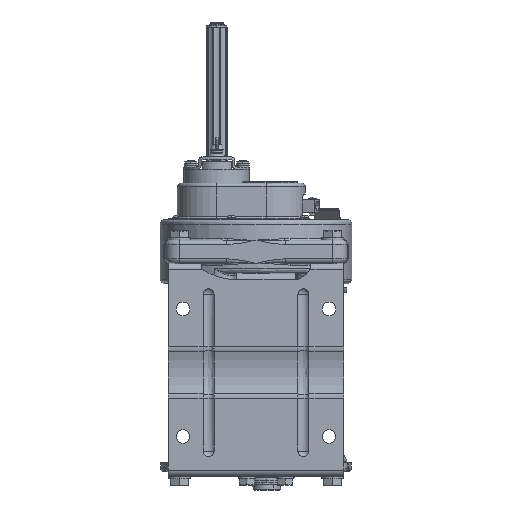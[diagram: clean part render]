
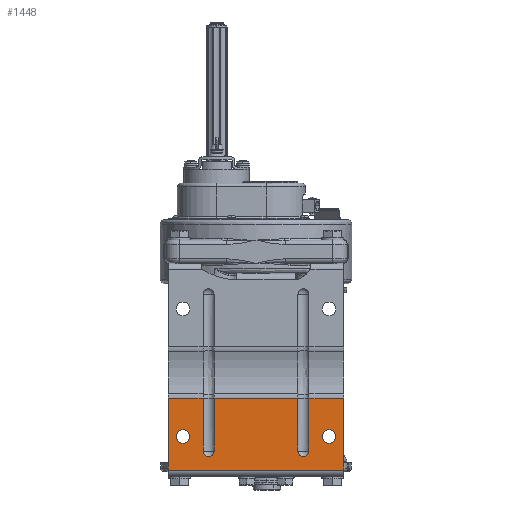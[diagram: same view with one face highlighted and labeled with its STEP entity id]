
A CAD part, front view. The second image highlights one B-rep face of the part: STEP entity #1448.
In plain terms, the highlighted planar face has unit normal (0, -1, 0).
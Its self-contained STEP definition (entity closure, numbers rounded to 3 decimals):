
#1448=ADVANCED_FACE('',(#16199,#16200,#16201),#16198,.T.);
#16198=PLANE('',#38514);
#16199=FACE_OUTER_BOUND('',#38515,.T.);
#16200=FACE_BOUND('',#38516,.T.);
#16201=FACE_BOUND('',#38517,.T.);
#38511=CARTESIAN_POINT('',(11.,-36.383,-259.95));
#38512=DIRECTION('',(0.,-1.,0.));
#38513=DIRECTION('',(0.,0.,1.));
#38514=AXIS2_PLACEMENT_3D('',#38511,#38512,#38513);
#38515=EDGE_LOOP('',(#57335,#57336,#57337,#57338,#57339,#57340,#57341,#57342,#57343,#57344,#57345,#57346));
#38516=EDGE_LOOP('',(#57347,#57348));
#38517=EDGE_LOOP('',(#57349,#57350));
#57335=ORIENTED_EDGE('',*,*,#67630,.F.);
#57336=ORIENTED_EDGE('',*,*,#67627,.F.);
#57337=ORIENTED_EDGE('',*,*,#67631,.T.);
#57338=ORIENTED_EDGE('',*,*,#67632,.T.);
#57339=ORIENTED_EDGE('',*,*,#67588,.F.);
#57340=ORIENTED_EDGE('',*,*,#67585,.T.);
#57341=ORIENTED_EDGE('',*,*,#67587,.T.);
#57342=ORIENTED_EDGE('',*,*,#67633,.T.);
#57343=ORIENTED_EDGE('',*,*,#67593,.F.);
#57344=ORIENTED_EDGE('',*,*,#67595,.F.);
#57345=ORIENTED_EDGE('',*,*,#67590,.T.);
#57346=ORIENTED_EDGE('',*,*,#67634,.T.);
#57347=ORIENTED_EDGE('',*,*,#67635,.F.);
#57348=ORIENTED_EDGE('',*,*,#67636,.F.);
#57349=ORIENTED_EDGE('',*,*,#67637,.F.);
#57350=ORIENTED_EDGE('',*,*,#67638,.F.);
#67585=EDGE_CURVE('',#95867,#95859,#95868,.T.);
#67587=EDGE_CURVE('',#95859,#95880,#95881,.T.);
#67588=EDGE_CURVE('',#95867,#95887,#95888,.T.);
#67590=EDGE_CURVE('',#95900,#95901,#95902,.T.);
#67593=EDGE_CURVE('',#95915,#95922,#95923,.T.);
#67595=EDGE_CURVE('',#95900,#95915,#95935,.T.);
#67627=EDGE_CURVE('',#96151,#96152,#96153,.T.);
#67630=EDGE_CURVE('',#96152,#96171,#96172,.T.);
#67631=EDGE_CURVE('',#96151,#96178,#96179,.T.);
#67632=EDGE_CURVE('',#96178,#95887,#96185,.T.);
#67633=EDGE_CURVE('',#95880,#95922,#96191,.T.);
#67634=EDGE_CURVE('',#95901,#96171,#96197,.T.);
#67635=EDGE_CURVE('',#96203,#96204,#96205,.T.);
#67636=EDGE_CURVE('',#96204,#96203,#96211,.T.);
#67637=EDGE_CURVE('',#96217,#96218,#96219,.T.);
#67638=EDGE_CURVE('',#96218,#96217,#96225,.T.);
#95859=VERTEX_POINT('',#131328);
#95867=VERTEX_POINT('',#131334);
#95868=CIRCLE('',#131338,6.);
#95880=VERTEX_POINT('',#131343);
#95881=LINE('',#131344,#131345);
#95887=VERTEX_POINT('',#131347);
#95888=LINE('',#131348,#131349);
#95900=VERTEX_POINT('',#131355);
#95901=VERTEX_POINT('',#131356);
#95902=LINE('',#131357,#131358);
#95915=VERTEX_POINT('',#131365);
#95922=VERTEX_POINT('',#131370);
#95923=LINE('',#131371,#131372);
#95935=CIRCLE('',#131381,6.);
#96151=VERTEX_POINT('',#131505);
#96152=VERTEX_POINT('',#131506);
#96153=LINE('',#131507,#131508);
#96171=VERTEX_POINT('',#131518);
#96172=LINE('',#131519,#131520);
#96178=VERTEX_POINT('',#131522);
#96179=LINE('',#131523,#131524);
#96185=LINE('',#131526,#131527);
#96191=LINE('',#131529,#131530);
#96197=LINE('',#131532,#131533);
#96203=VERTEX_POINT('',#131535);
#96204=VERTEX_POINT('',#131536);
#96205=CIRCLE('',#131540,7.5);
#96211=CIRCLE('',#131544,7.5);
#96217=VERTEX_POINT('',#131545);
#96218=VERTEX_POINT('',#131546);
#96219=CIRCLE('',#131550,7.5);
#96225=CIRCLE('',#131554,7.5);
#131328=CARTESIAN_POINT('',(-49.,-36.383,-231.302));
#131334=CARTESIAN_POINT('',(-37.,-36.383,-231.302));
#131335=CARTESIAN_POINT('',(-43.,-36.383,-231.302));
#131336=DIRECTION('',(0.,1.,0.));
#131337=DIRECTION('',(1.,0.,0.));
#131338=AXIS2_PLACEMENT_3D('',#131335,#131336,#131337);
#131343=CARTESIAN_POINT('',(-49.,-36.383,-173.596));
#131344=CARTESIAN_POINT('',(-49.,-36.383,-231.302));
#131345=VECTOR('',#131346,57.706);
#131346=DIRECTION('',(0.,0.,1.));
#131347=CARTESIAN_POINT('',(-37.,-36.383,-173.596));
#131348=CARTESIAN_POINT('',(-37.,-36.383,-231.302));
#131349=VECTOR('',#131350,57.706);
#131350=DIRECTION('',(0.,0.,1.));
#131355=CARTESIAN_POINT('',(-153.,-36.383,-231.302));
#131356=CARTESIAN_POINT('',(-153.,-36.383,-173.596));
#131357=CARTESIAN_POINT('',(-153.,-36.383,-231.302));
#131358=VECTOR('',#131359,57.706);
#131359=DIRECTION('',(0.,0.,1.));
#131365=CARTESIAN_POINT('',(-141.,-36.383,-231.302));
#131370=CARTESIAN_POINT('',(-141.,-36.383,-173.596));
#131371=CARTESIAN_POINT('',(-141.,-36.383,-231.302));
#131372=VECTOR('',#131373,57.706);
#131373=DIRECTION('',(0.,0.,1.));
#131378=CARTESIAN_POINT('',(-147.,-36.383,-231.302));
#131379=DIRECTION('',(0.,-1.,0.));
#131380=DIRECTION('',(1.,0.,0.));
#131381=AXIS2_PLACEMENT_3D('',#131378,#131379,#131380);
#131505=CARTESIAN_POINT('',(1.,-36.383,-252.1));
#131506=CARTESIAN_POINT('',(-191.,-36.383,-252.1));
#131507=CARTESIAN_POINT('',(1.,-36.383,-252.1));
#131508=VECTOR('',#131509,192.);
#131509=DIRECTION('',(-1.,0.,0.));
#131518=CARTESIAN_POINT('',(-191.,-36.383,-173.596));
#131519=CARTESIAN_POINT('',(-191.,-36.383,-252.1));
#131520=VECTOR('',#131521,78.504);
#131521=DIRECTION('',(0.,0.,1.));
#131522=CARTESIAN_POINT('',(1.,-36.383,-173.596));
#131523=CARTESIAN_POINT('',(1.,-36.383,-252.1));
#131524=VECTOR('',#131525,78.504);
#131525=DIRECTION('',(0.,0.,1.));
#131526=CARTESIAN_POINT('',(1.,-36.383,-173.596));
#131527=VECTOR('',#131528,38.);
#131528=DIRECTION('',(-1.,0.,0.));
#131529=CARTESIAN_POINT('',(-49.,-36.383,-173.596));
#131530=VECTOR('',#131531,92.);
#131531=DIRECTION('',(-1.,0.,0.));
#131532=CARTESIAN_POINT('',(-153.,-36.383,-173.596));
#131533=VECTOR('',#131534,38.);
#131534=DIRECTION('',(-1.,0.,0.));
#131535=CARTESIAN_POINT('',(-15.,-36.383,-222.9));
#131536=CARTESIAN_POINT('',(-15.,-36.383,-207.9));
#131537=CARTESIAN_POINT('',(-15.,-36.383,-215.4));
#131538=DIRECTION('',(0.,-1.,0.));
#131539=DIRECTION('',(0.,0.,1.));
#131540=AXIS2_PLACEMENT_3D('',#131537,#131538,#131539);
#131541=CARTESIAN_POINT('',(-15.,-36.383,-215.4));
#131542=DIRECTION('',(0.,-1.,0.));
#131543=DIRECTION('',(0.,0.,1.));
#131544=AXIS2_PLACEMENT_3D('',#131541,#131542,#131543);
#131545=CARTESIAN_POINT('',(-175.,-36.383,-222.9));
#131546=CARTESIAN_POINT('',(-175.,-36.383,-207.9));
#131547=CARTESIAN_POINT('',(-175.,-36.383,-215.4));
#131548=DIRECTION('',(0.,-1.,0.));
#131549=DIRECTION('',(0.,0.,1.));
#131550=AXIS2_PLACEMENT_3D('',#131547,#131548,#131549);
#131551=CARTESIAN_POINT('',(-175.,-36.383,-215.4));
#131552=DIRECTION('',(0.,-1.,0.));
#131553=DIRECTION('',(0.,0.,1.));
#131554=AXIS2_PLACEMENT_3D('',#131551,#131552,#131553);
